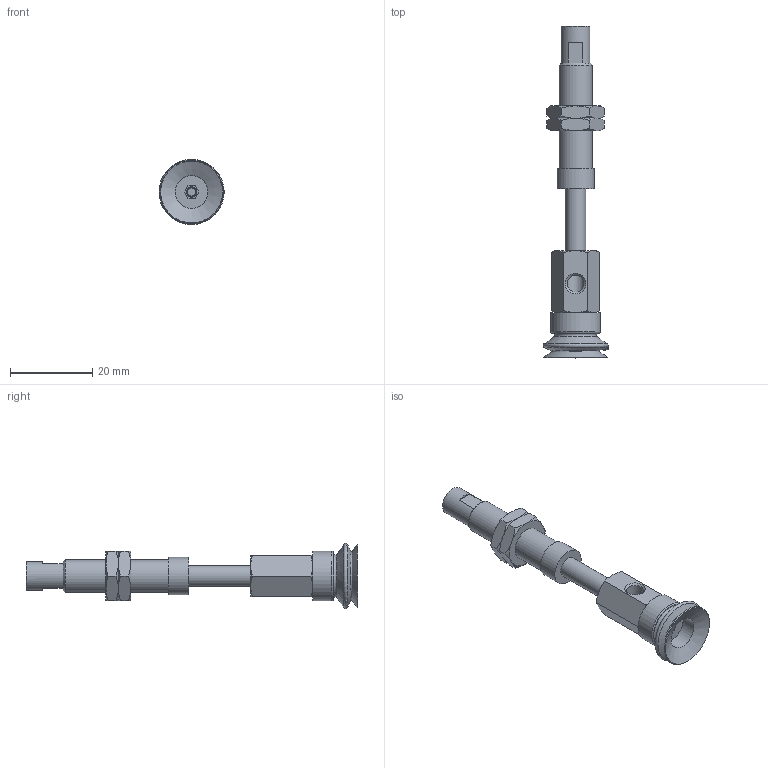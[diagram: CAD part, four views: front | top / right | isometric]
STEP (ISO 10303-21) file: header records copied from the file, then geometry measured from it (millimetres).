
FILE_DESCRIPTION(('STEP AP203'),'1');
FILE_NAME('.stp','2025-04-24T00:55:19',(' '),(' '),'Spatial InterOp 3D',' ',' ');
FILE_SCHEMA(('CONFIG_CONTROL_DESIGN'));
Length unit declared in the file: millimetre
Products named in the file (7): BNABPJYS-15-15-※; Adapter-15-NAPJ; CONNECTOR_S-15-15; NUT-NAPJ-15-15-s; NAPJTS-15-15-FBODY; NAPJTS-15-15-MBODY; BPJG-15-※
Assembly tree (7 placements, depth 2):
  BNABPJYS-15-15-※
    Adapter-15-NAPJ
    CONNECTOR_S-15-15
    NUT-NAPJ-15-15-s  x2
    NAPJTS-15-15-FBODY
    NAPJTS-15-15-MBODY
    BPJG-15-※
Bounding box: 15.99 x 80.5 x 15.78 mm (x, y, z)
Volume: 4725.6 mm3; surface area: 5692.1 mm2
Topology: 7 solids, 7 shells, 151 faces, 323 edges, 193 vertices
Faces by surface type: plane 59, cone 55, cylinder 18, torus 9, bspline 6, sphere 4
Full cylindrical faces by diameter (mm): 2 x1, 2.5 x1, 4.134 x3, 4.6 x1, 5 x4, 7 x1, 7.188 x2, 7.9 x1, 8 x2, 9 x1, 12 x1
Entity records: 3784 total; most frequent: CARTESIAN_POINT 919, DIRECTION 532, ORIENTED_EDGE 450, AXIS2_PLACEMENT_3D 233, EDGE_CURVE 225, EDGE_LOOP 187, VERTEX_POINT 156, FACE_OUTER_BOUND 152
